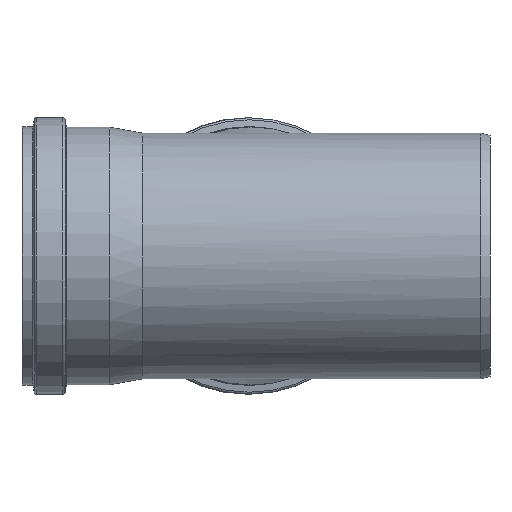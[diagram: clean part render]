
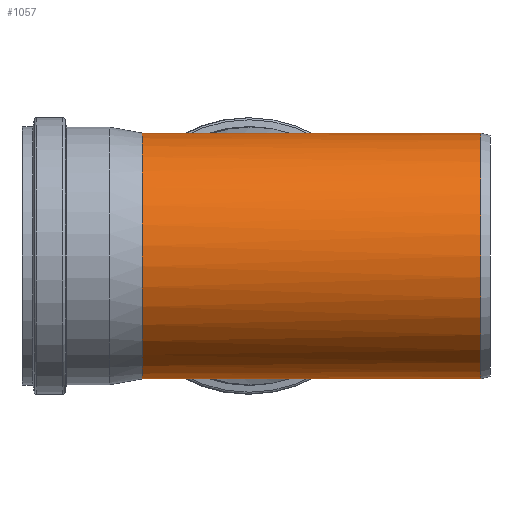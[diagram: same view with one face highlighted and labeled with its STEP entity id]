
A CAD part, left-side view. The second image highlights one B-rep face of the part: STEP entity #1057.
In plain terms, the highlighted cylindrical face has radius 157.65 mm (diameter 315.3 mm), a full revolution.
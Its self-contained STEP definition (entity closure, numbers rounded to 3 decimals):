
#47=CYLINDRICAL_SURFACE('',#1148,157.65);
#65=LINE('',#2339,#94);
#94=VECTOR('',#1351,157.65);
#125=CIRCLE('',#1149,157.65);
#126=CIRCLE('',#1150,157.65);
#257=FACE_OUTER_BOUND('',#320,.T.);
#320=EDGE_LOOP('',(#743,#744,#745,#746,#747,#748,#749,#750,#751,#752,#753,
#754));
#384=B_SPLINE_CURVE_WITH_KNOTS('',3,(#1979,#1980,#1981,#1982,#1983),
 .UNSPECIFIED.,.F.,.F.,(4,1,4),(-112.035,-109.191,-106.964),
 .UNSPECIFIED.);
#385=B_SPLINE_CURVE_WITH_KNOTS('',3,(#1984,#1985,#1986,#1987,#1988,#1989),
 .UNSPECIFIED.,.F.,.F.,(4,1,1,4),(-106.964,-106.222,-103.252,
-101.893),.UNSPECIFIED.);
#392=B_SPLINE_CURVE_WITH_KNOTS('',3,(#2300,#2301,#2302,#2303,#2304,#2305,
#2306,#2307,#2308,#2309),.UNSPECIFIED.,.F.,.F.,(4,2,2,2,4),(0.,0.039,
0.062,0.078,0.079),.UNSPECIFIED.);
#395=B_SPLINE_CURVE_WITH_KNOTS('',3,(#2326,#2327,#2328,#2329,#2330,#2331,
#2332,#2333,#2334,#2335),.UNSPECIFIED.,.F.,.F.,(4,2,2,2,4),(4.044,
4.045,4.076,4.115,4.202),
 .UNSPECIFIED.);
#398=ELLIPSE('',#1134,220.907,157.65);
#401=ELLIPSE('',#1137,220.907,157.65);
#402=ELLIPSE('',#1138,231.015,157.65);
#405=ELLIPSE('',#1141,231.015,157.65);
#410=VERTEX_POINT('',#1747);
#411=VERTEX_POINT('',#1748);
#414=VERTEX_POINT('',#1851);
#415=VERTEX_POINT('',#1853);
#419=VERTEX_POINT('',#1978);
#420=VERTEX_POINT('',#2037);
#423=VERTEX_POINT('',#2135);
#427=VERTEX_POINT('',#2299);
#429=VERTEX_POINT('',#2318);
#430=VERTEX_POINT('',#2338);
#523=EDGE_CURVE('',#410,#411,#398,.T.);
#527=EDGE_CURVE('',#414,#415,#401,.T.);
#532=EDGE_CURVE('',#415,#419,#384,.T.);
#533=EDGE_CURVE('',#419,#410,#385,.T.);
#536=EDGE_CURVE('',#420,#414,#402,.T.);
#540=EDGE_CURVE('',#411,#423,#405,.T.);
#548=EDGE_CURVE('',#427,#423,#392,.T.);
#551=EDGE_CURVE('',#420,#429,#395,.T.);
#552=EDGE_CURVE('',#427,#429,#125,.T.);
#553=EDGE_CURVE('',#419,#430,#65,.T.);
#554=EDGE_CURVE('',#430,#430,#126,.T.);
#743=ORIENTED_EDGE('',*,*,#536,.F.);
#744=ORIENTED_EDGE('',*,*,#551,.T.);
#745=ORIENTED_EDGE('',*,*,#552,.F.);
#746=ORIENTED_EDGE('',*,*,#548,.T.);
#747=ORIENTED_EDGE('',*,*,#540,.F.);
#748=ORIENTED_EDGE('',*,*,#523,.F.);
#749=ORIENTED_EDGE('',*,*,#533,.F.);
#750=ORIENTED_EDGE('',*,*,#553,.T.);
#751=ORIENTED_EDGE('',*,*,#554,.T.);
#752=ORIENTED_EDGE('',*,*,#553,.F.);
#753=ORIENTED_EDGE('',*,*,#532,.F.);
#754=ORIENTED_EDGE('',*,*,#527,.F.);
#1057=ADVANCED_FACE('',(#257),#47,.T.);
#1134=AXIS2_PLACEMENT_3D('',#1749,#1318,#1319);
#1137=AXIS2_PLACEMENT_3D('',#1854,#1324,#1325);
#1138=AXIS2_PLACEMENT_3D('',#2097,#1326,#1327);
#1141=AXIS2_PLACEMENT_3D('',#2189,#1332,#1333);
#1148=AXIS2_PLACEMENT_3D('',#2336,#1347,#1348);
#1149=AXIS2_PLACEMENT_3D('',#2337,#1349,#1350);
#1150=AXIS2_PLACEMENT_3D('',#2340,#1352,#1353);
#1318=DIRECTION('center_axis',(0.701,0.714,0.));
#1319=DIRECTION('ref_axis',(0.714,-0.701,0.));
#1324=DIRECTION('center_axis',(0.701,0.714,0.));
#1325=DIRECTION('ref_axis',(0.714,-0.701,0.));
#1326=DIRECTION('center_axis',(0.731,-0.682,0.));
#1327=DIRECTION('ref_axis',(0.682,0.731,0.));
#1332=DIRECTION('center_axis',(0.731,-0.682,0.));
#1333=DIRECTION('ref_axis',(0.682,0.731,0.));
#1347=DIRECTION('center_axis',(0.,1.,0.));
#1348=DIRECTION('ref_axis',(-1.,0.,0.));
#1349=DIRECTION('center_axis',(0.,1.,0.));
#1350=DIRECTION('ref_axis',(1.,0.,0.));
#1351=DIRECTION('',(0.,-1.,0.));
#1352=DIRECTION('center_axis',(0.,1.,0.));
#1353=DIRECTION('ref_axis',(1.,0.,0.));
#1747=CARTESIAN_POINT('',(150.242,150.525,-47.758));
#1748=CARTESIAN_POINT('',(0.,298.,-157.65));
#1749=CARTESIAN_POINT('Origin',(0.,298.,0.));
#1851=CARTESIAN_POINT('',(0.,298.,157.65));
#1853=CARTESIAN_POINT('',(150.242,150.525,47.758));
#1854=CARTESIAN_POINT('Origin',(0.,298.,0.));
#1978=CARTESIAN_POINT('',(157.65,141.981,0.));
#1979=CARTESIAN_POINT('Ctrl Pts',(150.242,150.525,47.758));
#1980=CARTESIAN_POINT('Ctrl Pts',(152.891,147.447,39.423));
#1981=CARTESIAN_POINT('Ctrl Pts',(156.508,143.287,23.729));
#1982=CARTESIAN_POINT('Ctrl Pts',(157.647,141.983,7.24));
#1983=CARTESIAN_POINT('Ctrl Pts',(157.65,141.981,0.));
#1984=CARTESIAN_POINT('Ctrl Pts',(157.65,141.981,0.));
#1985=CARTESIAN_POINT('Ctrl Pts',(157.651,141.98,-2.414));
#1986=CARTESIAN_POINT('Ctrl Pts',(157.379,142.292,-14.48));
#1987=CARTESIAN_POINT('Ctrl Pts',(155.094,144.907,-30.761));
#1988=CARTESIAN_POINT('Ctrl Pts',(151.508,149.054,-43.775));
#1989=CARTESIAN_POINT('Ctrl Pts',(150.242,150.525,-47.758));
#2037=CARTESIAN_POINT('',(137.762,445.56,76.649));
#2097=CARTESIAN_POINT('Origin',(0.,298.,0.));
#2135=CARTESIAN_POINT('',(137.762,445.56,-76.649));
#2189=CARTESIAN_POINT('Origin',(0.,298.,0.));
#2299=CARTESIAN_POINT('',(137.413,445.825,-77.273));
#2300=CARTESIAN_POINT('Ctrl Pts',(137.413,445.825,-77.273));
#2301=CARTESIAN_POINT('Ctrl Pts',(137.477,445.825,-77.159));
#2302=CARTESIAN_POINT('Ctrl Pts',(137.547,445.814,-77.034));
#2303=CARTESIAN_POINT('Ctrl Pts',(137.644,445.758,-76.86));
#2304=CARTESIAN_POINT('Ctrl Pts',(137.68,445.728,-76.797));
#2305=CARTESIAN_POINT('Ctrl Pts',(137.73,445.651,-76.708));
#2306=CARTESIAN_POINT('Ctrl Pts',(137.747,445.613,-76.677));
#2307=CARTESIAN_POINT('Ctrl Pts',(137.761,445.565,-76.652));
#2308=CARTESIAN_POINT('Ctrl Pts',(137.761,445.562,-76.651));
#2309=CARTESIAN_POINT('Ctrl Pts',(137.762,445.56,-76.649));
#2318=CARTESIAN_POINT('',(137.413,445.825,77.273));
#2326=CARTESIAN_POINT('Ctrl Pts',(137.762,445.56,76.649));
#2327=CARTESIAN_POINT('Ctrl Pts',(137.762,445.562,76.65));
#2328=CARTESIAN_POINT('Ctrl Pts',(137.761,445.564,76.651));
#2329=CARTESIAN_POINT('Ctrl Pts',(137.748,445.608,76.674));
#2330=CARTESIAN_POINT('Ctrl Pts',(137.733,445.645,76.702));
#2331=CARTESIAN_POINT('Ctrl Pts',(137.69,445.714,76.779));
#2332=CARTESIAN_POINT('Ctrl Pts',(137.662,445.742,76.829));
#2333=CARTESIAN_POINT('Ctrl Pts',(137.568,445.81,76.997));
#2334=CARTESIAN_POINT('Ctrl Pts',(137.49,445.825,77.136));
#2335=CARTESIAN_POINT('Ctrl Pts',(137.413,445.825,77.273));
#2336=CARTESIAN_POINT('Origin',(0.,228.913,0.));
#2337=CARTESIAN_POINT('Origin',(0.,445.825,0.));
#2338=CARTESIAN_POINT('',(157.65,12.,0.));
#2339=CARTESIAN_POINT('',(157.65,228.913,0.));
#2340=CARTESIAN_POINT('Origin',(0.,12.,0.));
